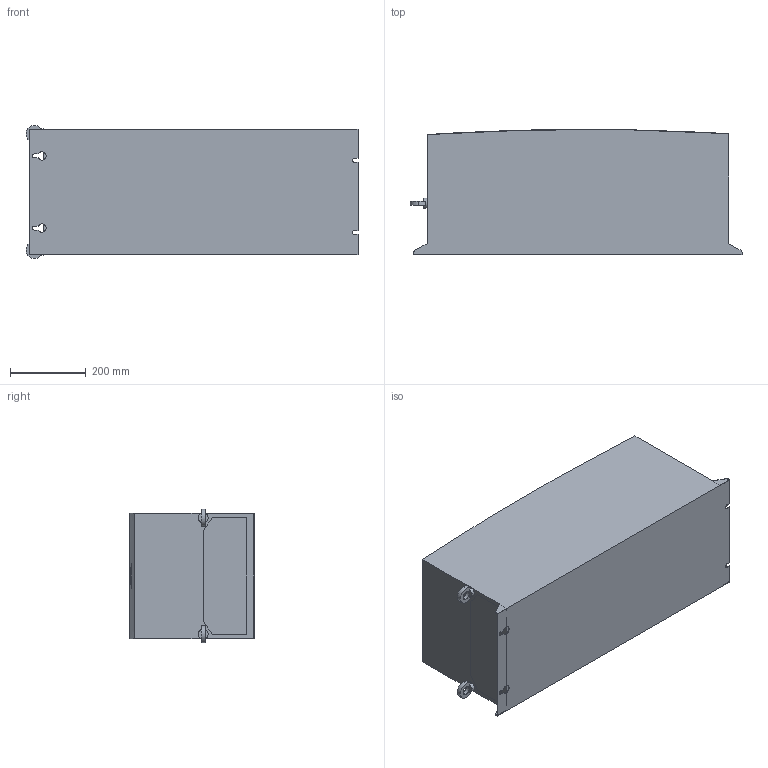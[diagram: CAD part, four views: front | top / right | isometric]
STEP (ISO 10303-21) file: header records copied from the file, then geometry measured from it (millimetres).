
FILE_DESCRIPTION (( 'STEP AP214' ), '1' );
FILE_NAME ('P2 S6 IP55.STEP', '2017-08-15T14:13:10', ( '' ), ( '' ), 'SwSTEP 2.0', 'SolidWorks 2017', '' );
FILE_SCHEMA (( 'AUTOMOTIVE_DESIGN' ));
Length unit declared in the file: millimetre
Products named in the file (1): P2 S6 IP55
Bounding box: 875 x 329.27 x 351.8 mm (x, y, z)
Volume: 85341286 mm3; surface area: 1310285.4 mm2
Topology: 1 solids, 1 shells, 237 faces, 610 edges, 404 vertices
Faces by surface type: cylinder 95, plane 82, bspline 60
Entity records: 10386 total; most frequent: CARTESIAN_POINT 5222, ORIENTED_EDGE 1220, DIRECTION 776, EDGE_CURVE 610, VERTEX_POINT 404, EDGE_LOOP 274, VECTOR 272, LINE 272
